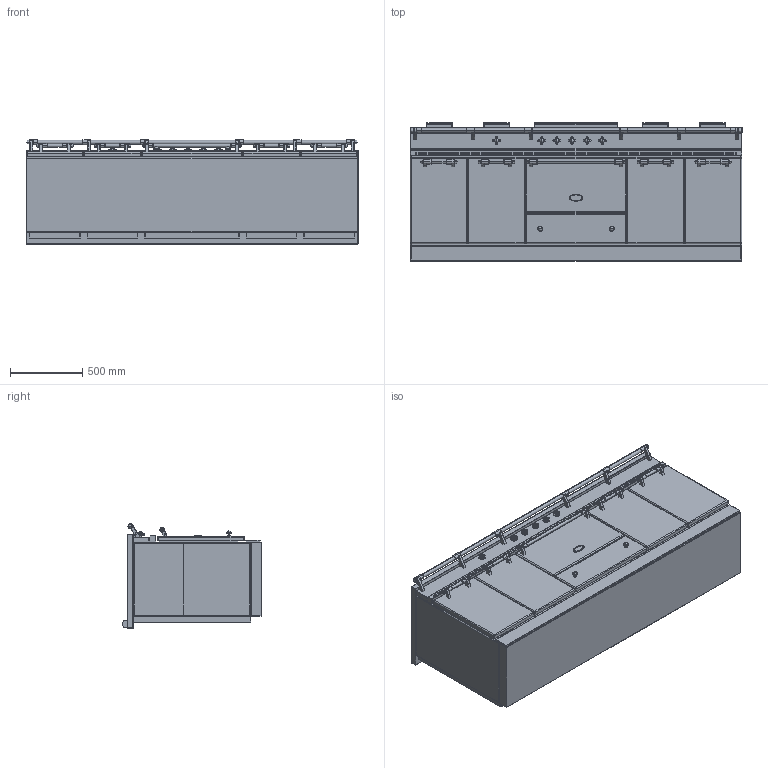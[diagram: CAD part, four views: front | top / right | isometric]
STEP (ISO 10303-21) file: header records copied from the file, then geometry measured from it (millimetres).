
FILE_DESCRIPTION((''),'2;1');
FILE_NAME('LVTR2342_ASM','2021-12-02T16:17:02',('r.avril'),(''),'CREO PARAMETRIC BY PTC INC, 2017260','CREO PARAMETRIC BY PTC INC, 2017260','');
FILE_SCHEMA(('AP203_CONFIGURATION_CONTROLLED_3D_DESIGN_OF_MECHANICAL_PARTS_AND_ASSEMBLIES_MIM_LF { 1 0 10303 403 2 1 2 }'));
Products named in the file (21): BASE_EXPORT_FONTENAY_LVTR2341; 65650003; 65650004; 65650006; 65650007; 6531940; 6531941; 6531943; 65049009; 65650001; 6538399; 1931942; 65080022_AF0; 6531942_ASM; BASE_EXPORT_CITEAUX_LVTR2342_ASM; TABLE_2300_INDUCTION_ET_VTR; 65052002; CHEMINEE_2020_LG582_EXPORT_STEP; CHEMINEE_2020_LG182_EXPORT_STEP; TABLE_2300_VTR_ASM; LVTR2342_ASM
Assembly tree (39 placements, depth 4):
  LVTR2342_ASM
    BASE_EXPORT_CITEAUX_LVTR2342_ASM
      BASE_EXPORT_FONTENAY_LVTR2341
      65650003
      65650004
      65650006  x2
      65650007  x2
      6531940  x5
      6531941  x5
      6531943  x2
      65049009
      65650001
      6531942_ASM  x6
        6538399
        1931942
        65080022_AF0
    TABLE_2300_VTR_ASM
      TABLE_2300_INDUCTION_ET_VTR
      65052002
      CHEMINEE_2020_LG582_EXPORT_STEP
      CHEMINEE_2020_LG182_EXPORT_STEP  x4
Bounding box: 2305 x 963 x 724 mm (x, y, z)
Volume: 851425971.1 mm3; surface area: 19488905.8 mm2
Topology: 56 solids, 74 shells, 6093 faces, 16380 edges, 10458 vertices
Faces by surface type: plane 2955, cylinder 2196, torus 312, sphere 194, extrusion 170, bspline 134, cone 108, revolution 24
Entity records: 121547 total; most frequent: CARTESIAN_POINT 26517, DIRECTION 17372, ORIENTED_EDGE 17184, EDGE_CURVE 8606, AXIS2_PLACEMENT_3D 5894, VERTEX_POINT 5543, VECTOR 5516, LINE 5486
